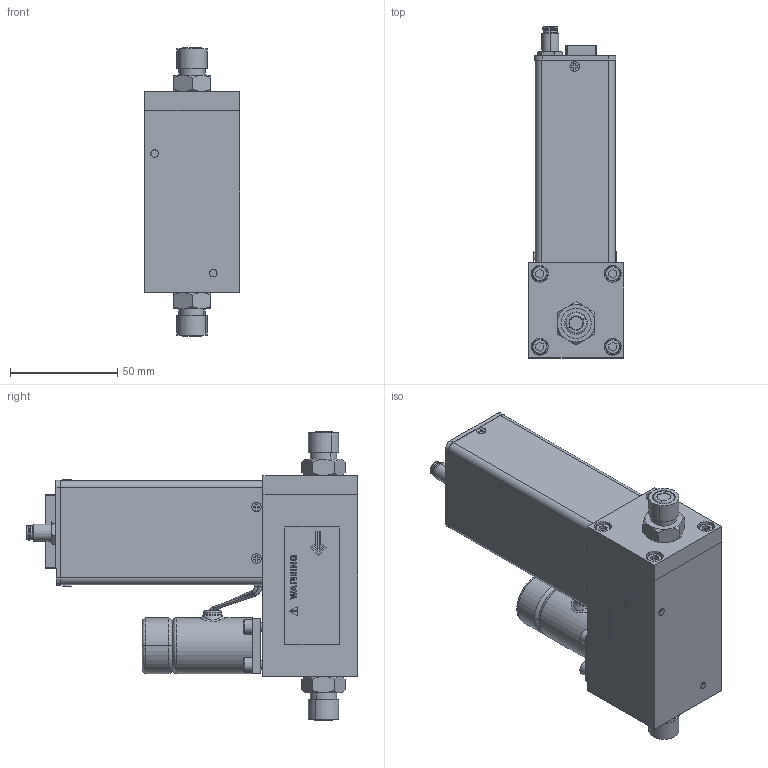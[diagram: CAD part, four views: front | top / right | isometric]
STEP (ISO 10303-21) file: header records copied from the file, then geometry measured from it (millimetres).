
FILE_DESCRIPTION (( 'STEP AP203' ), '1' );
FILE_NAME ('SLA5851-7-1F-1-A-REVB.STEP', '2021-02-11T13:56:28', ( '' ), ( '' ), 'SwSTEP 2.0', 'SolidWorks 2020', '' );
FILE_SCHEMA (( 'CONFIG_CONTROL_DESIGN' ));
Products named in the file (1): SLA5851-7-1F-1-A-REVB
Bounding box: 44.3 x 154.44 x 134.29 mm (x, y, z)
Volume: 81928.3 mm3; surface area: 119401.7 mm2
Topology: 60 solids, 60 shells, 2296 faces, 5991 edges, 3883 vertices
Faces by surface type: plane 1463, cylinder 548, bspline 167, cone 118
Entity records: 75460 total; most frequent: CARTESIAN_POINT 19150, ORIENTED_EDGE 11946, DIRECTION 11215, EDGE_CURVE 5973, LINE 4281, VECTOR 4281, VERTEX_POINT 3883, AXIS2_PLACEMENT_3D 3467
